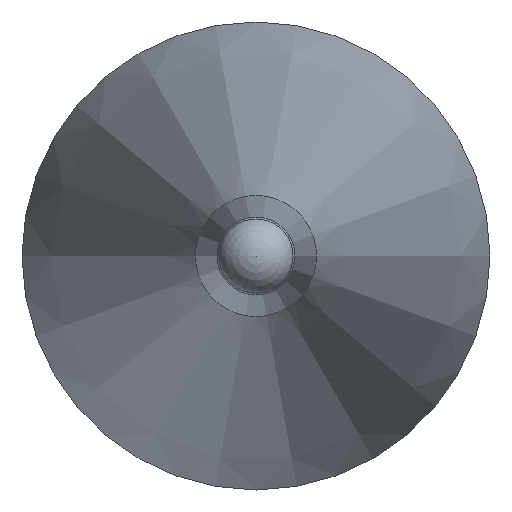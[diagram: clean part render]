
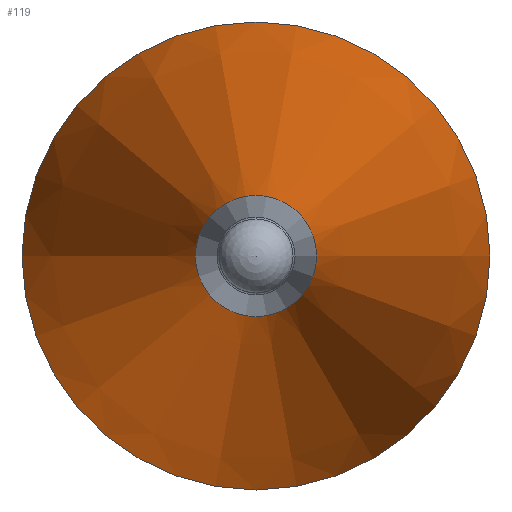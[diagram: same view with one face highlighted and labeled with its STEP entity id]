
A CAD part, left-side view. The second image highlights one B-rep face of the part: STEP entity #119.
In plain terms, the highlighted conical face has half-angle 12 degrees and reference radius 3 mm.
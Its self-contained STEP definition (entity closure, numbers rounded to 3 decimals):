
#97=CONICAL_SURFACE('',#194,3.,12.);
#106=FACE_BOUND('',#134,.T.);
#107=FACE_BOUND('',#135,.T.);
#119=ADVANCED_FACE('',(#106,#107),#97,.T.);
#134=EDGE_LOOP('',(#150));
#135=EDGE_LOOP('',(#151));
#150=ORIENTED_EDGE('',*,*,#172,.F.);
#151=ORIENTED_EDGE('',*,*,#173,.T.);
#164=VERTEX_POINT('',#249);
#165=VERTEX_POINT('',#252);
#172=EDGE_CURVE('',#164,#164,#180,.T.);
#173=EDGE_CURVE('',#165,#165,#181,.T.);
#180=CIRCLE('',#191,0.777);
#181=CIRCLE('',#193,3.);
#191=AXIS2_PLACEMENT_3D('',#248,#215,#216);
#193=AXIS2_PLACEMENT_3D('',#251,#219,#220);
#194=AXIS2_PLACEMENT_3D('',#253,#221,#222);
#215=DIRECTION('',(-1.,0.,0.));
#216=DIRECTION('',(0.,-1.,0.));
#219=DIRECTION('',(-1.,0.,0.));
#220=DIRECTION('',(0.,-1.,0.));
#221=DIRECTION('',(1.,0.,0.));
#222=DIRECTION('',(0.,1.,0.));
#248=CARTESIAN_POINT('',(7913.912,6103.288,0.));
#249=CARTESIAN_POINT('',(7913.912,6102.512,0.));
#251=CARTESIAN_POINT('',(7924.372,6103.288,0.));
#252=CARTESIAN_POINT('',(7924.372,6100.288,0.));
#253=CARTESIAN_POINT('',(7924.372,6103.288,0.));
